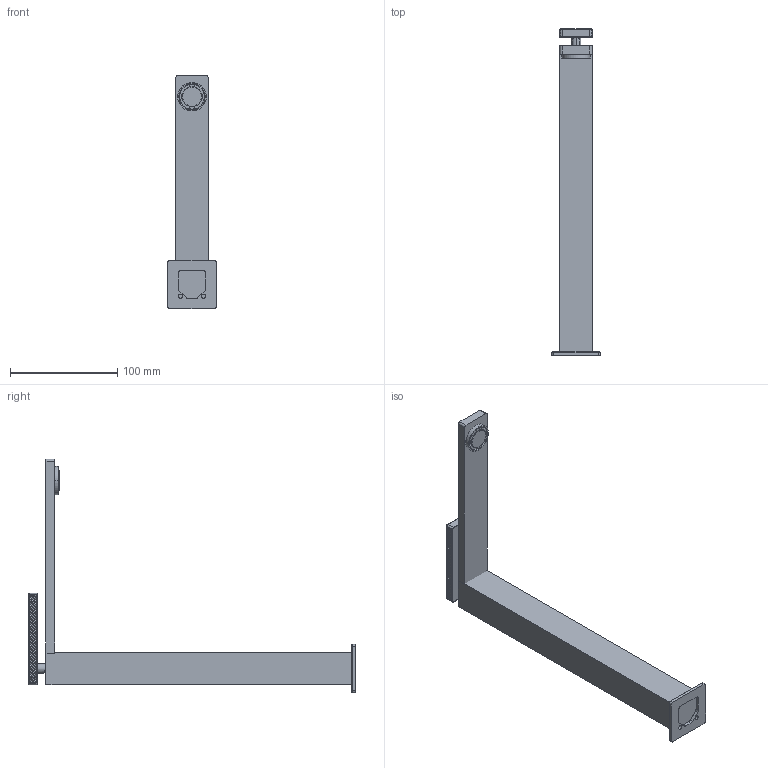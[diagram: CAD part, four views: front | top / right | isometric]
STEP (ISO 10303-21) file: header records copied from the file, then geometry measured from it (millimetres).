
FILE_DESCRIPTION((''),'2;1');
FILE_NAME('DIS_3D_P706WF_ASM','2025-06-03T17:05:05',('Luca'),(''),'CREO PARAMETRIC BY PTC INC, 2025010','CREO PARAMETRIC BY PTC INC, 2025010','');
FILE_SCHEMA(('AUTOMOTIVE_DESIGN { 1 0 10303 214 1 1 1 1 }'));
Products named in the file (9): LABEL-1353; LABEL-3113; LABEL-52066_AF0; LABEL-53838; LABEL-55532; LABEL-57281; LABEL-57734_AF0; TOP_AF0_ASM; DIS_3D_P706WF_ASM
Assembly tree (8 placements, depth 3):
  DIS_3D_P706WF_ASM
    TOP_AF0_ASM
      LABEL-1353
      LABEL-3113
      LABEL-52066_AF0
      LABEL-53838
      LABEL-55532
      LABEL-57281
      LABEL-57734_AF0
Bounding box: 45 x 304 x 217.5 mm (x, y, z)
Volume: 328374.9 mm3; surface area: 67565.1 mm2
Topology: 7 solids, 7 shells, 2087 faces, 4971 edges, 2914 vertices
Faces by surface type: plane 1702, cylinder 337, cone 36, torus 12
Entity records: 98159 total; most frequent: CARTESIAN_POINT 20932, ORIENTED_EDGE 9882, DIRECTION 8841, PRESENTATION_STYLE_ASSIGNMENT 7068, STYLED_ITEM 6963, CURVE_STYLE 4986, EDGE_CURVE 4941, VECTOR 3505
